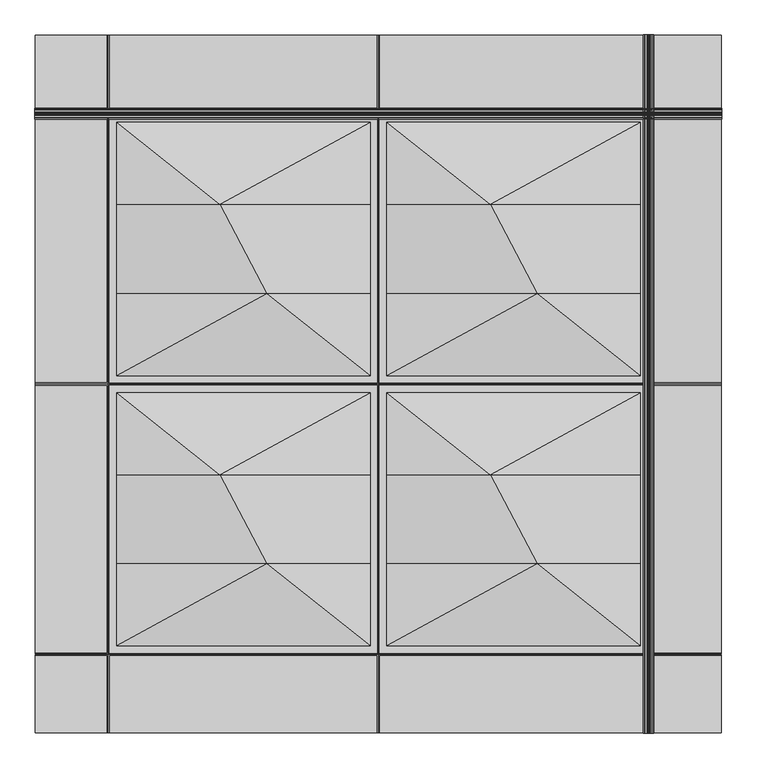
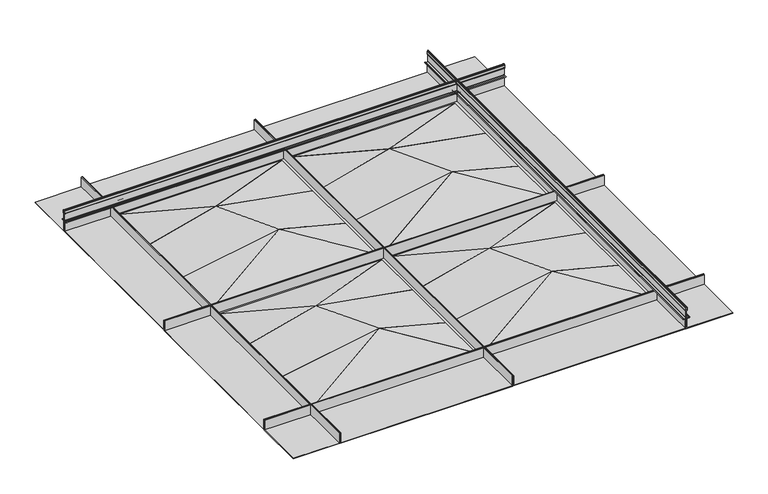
"""IFC4 building model written with IfcOpenShell, lengths in millimetres: proxy geometry, Maxxit_Highland-Ceiling_rev-01 : Maxxit_Highland-Ceiling_Solo."""

from ifc_helpers import new_model, si_unit, point, frame, frame_2d, origin, place, context, project, spatial, polyline, circle_curve, trimmed, segment, composite_curve, outline, extrude, faceted_brep, source, transform, mapped, element, save
from ifc_brep_helpers import plane_surface, spline_surface, advanced_brep


def generic_models_57989197(model_context):
    return source(origin(), model_context, "Body", "SolidModel", [
        faceted_brep([(164.30625, 1395.4125, 25.4), (0.79375, 1395.4125, 25.4), (0.79375, 1393.825, 25.4), (162.71875, 1393.825, 25.4), (162.71875, 788.9875, 25.4), (0.79375, 788.9875, 25.4), (0.79375, 787.4, 25.4), (164.30625, 787.4, 25.4), (164.30625, 1395.4125, -12.7), (164.30625, 787.4, -12.7), (0.79375, 787.4, -12.7), (0.79375, 1395.4125, -12.7), (0.79375, 788.9875, -11.1125), (0.79375, 1393.825, -11.1125), (162.71875, 788.9875, -11.1125), (162.71875, 1393.825, -11.1125)], [[[0, 1, 2, 3, 4, 5, 6, 7]], [[8, 9, 10, 11]], [[1, 0, 8, 11]], [[11, 10, 6, 5, 12, 13, 2, 1]], [[7, 6, 10, 9]], [[0, 7, 9, 8]], [[14, 15, 13, 12]], [[13, 15, 3, 2]], [[14, 12, 5, 4]], [[15, 14, 4, 3]]]),
        faceted_brep([(164.30625, 785.8125, 25.4), (0.79375, 785.8125, 25.4), (0.79375, 784.225, 25.4), (162.71875, 784.225, 25.4), (162.71875, 179.3875, 25.4), (0.79375, 179.3875, 25.4), (0.79375, 177.8, 25.4), (164.30625, 177.8, 25.4), (164.30625, 785.8125, -12.7), (164.30625, 177.8, -12.7), (0.79375, 177.8, -12.7), (0.79375, 785.8125, -12.7), (0.79375, 179.3875, -11.1125), (0.79375, 784.225, -11.1125), (162.71875, 179.3875, -11.1125), (162.71875, 784.225, -11.1125)], [[[0, 1, 2, 3, 4, 5, 6, 7]], [[8, 9, 10, 11]], [[1, 0, 8, 11]], [[11, 10, 6, 5, 12, 13, 2, 1]], [[7, 6, 10, 9]], [[0, 7, 9, 8]], [[14, 15, 13, 12]], [[13, 15, 3, 2]], [[14, 12, 5, 4]], [[15, 14, 4, 3]]]),
        faceted_brep([(1385.09375, 1395.4125, 25.4), (1385.09375, 787.4, 25.4), (1548.60625, 787.4, 25.4), (1548.60625, 788.9875, 25.4), (1386.68125, 788.9875, 25.4), (1386.68125, 1393.825, 25.4), (1548.60625, 1393.825, 25.4), (1548.60625, 1395.4125, 25.4), (1385.09375, 1395.4125, -12.7), (1548.60625, 1395.4125, -12.7), (1548.60625, 787.4, -12.7), (1385.09375, 787.4, -12.7), (1548.60625, 1393.825, -11.1125), (1548.60625, 788.9875, -11.1125), (1386.68125, 788.9875, -11.1125), (1386.68125, 1393.825, -11.1125)], [[[0, 1, 2, 3, 4, 5, 6, 7]], [[8, 9, 10, 11]], [[7, 9, 8, 0]], [[9, 7, 6, 12, 13, 3, 2, 10]], [[1, 11, 10, 2]], [[0, 8, 11, 1]], [[14, 13, 12, 15]], [[12, 6, 5, 15]], [[14, 4, 3, 13]], [[15, 5, 4, 14]]]),
        faceted_brep([(1385.09375, 785.8125, 25.4), (1385.09375, 177.8, 25.4), (1548.60625, 177.8, 25.4), (1548.60625, 179.3875, 25.4), (1386.68125, 179.3875, 25.4), (1386.68125, 784.225, 25.4), (1548.60625, 784.225, 25.4), (1548.60625, 785.8125, 25.4), (1385.09375, 785.8125, -12.7), (1548.60625, 785.8125, -12.7), (1548.60625, 177.8, -12.7), (1385.09375, 177.8, -12.7), (1548.60625, 784.225, -11.1125), (1548.60625, 179.3875, -11.1125), (1386.68125, 179.3875, -11.1125), (1386.68125, 784.225, -11.1125)], [[[0, 1, 2, 3, 4, 5, 6, 7]], [[8, 9, 10, 11]], [[7, 9, 8, 0]], [[9, 7, 6, 12, 13, 3, 2, 10]], [[1, 11, 10, 2]], [[0, 8, 11, 1]], [[14, 13, 12, 15]], [[12, 6, 5, 15]], [[14, 4, 3, 13]], [[15, 5, 4, 14]]]),
        faceted_brep([(1383.50625, 1397.0, 25.4), (1383.50625, 1573.2125, 25.4), (1381.91875, 1573.2125, 25.4), (1381.91875, 1398.5875, 25.4), (777.08125, 1398.5875, 25.4), (777.08125, 1573.2125, 25.4), (775.49375, 1573.2125, 25.4), (775.49375, 1397.0, 25.4), (1383.50625, 1397.0, -12.7), (775.49375, 1397.0, -12.7), (775.49375, 1573.2125, -12.7), (1383.50625, 1573.2125, -12.7), (777.08125, 1573.2125, -11.1125), (1381.91875, 1573.2125, -11.1125), (1381.91875, 1398.5875, -11.1125), (777.08125, 1398.5875, -11.1125)], [[[0, 1, 2, 3, 4, 5, 6, 7]], [[8, 9, 10, 11]], [[7, 9, 8, 0]], [[6, 10, 9, 7]], [[10, 6, 5, 12, 13, 2, 1, 11]], [[0, 8, 11, 1]], [[14, 13, 12, 15]], [[15, 4, 3, 14]], [[15, 12, 5, 4]], [[3, 2, 13, 14]]]),
        faceted_brep([(773.90625, 1397.0, 25.4), (773.90625, 1573.2125, 25.4), (772.31875, 1573.2125, 25.4), (772.31875, 1398.5875, 25.4), (167.48125, 1398.5875, 25.4), (167.48125, 1573.2125, 25.4), (165.89375, 1573.2125, 25.4), (165.89375, 1397.0, 25.4), (773.90625, 1397.0, -12.7), (165.89375, 1397.0, -12.7), (165.89375, 1573.2125, -12.7), (773.90625, 1573.2125, -12.7), (167.48125, 1573.2125, -11.1125), (772.31875, 1573.2125, -11.1125), (772.31875, 1398.5875, -11.1125), (167.48125, 1398.5875, -11.1125)], [[[0, 1, 2, 3, 4, 5, 6, 7]], [[8, 9, 10, 11]], [[7, 9, 8, 0]], [[6, 10, 9, 7]], [[10, 6, 5, 12, 13, 2, 1, 11]], [[0, 8, 11, 1]], [[14, 13, 12, 15]], [[15, 4, 3, 14]], [[15, 12, 5, 4]], [[3, 2, 13, 14]]]),
        faceted_brep([(1383.50625, 176.2125, 25.4), (775.49375, 176.2125, 25.4), (775.49375, 0.0, 25.4), (777.08125, 0.0, 25.4), (777.08125, 174.625, 25.4), (1381.91875, 174.625, 25.4), (1381.91875, 0.0, 25.4), (1383.50625, 0.0, 25.4), (1383.50625, 176.2125, -12.7), (1383.50625, 0.0, -12.7), (775.49375, 0.0, -12.7), (775.49375, 176.2125, -12.7), (1381.91875, 0.0, -11.1125), (777.08125, 0.0, -11.1125), (1381.91875, 174.625, -11.1125), (777.08125, 174.625, -11.1125)], [[[0, 1, 2, 3, 4, 5, 6, 7]], [[8, 9, 10, 11]], [[1, 0, 8, 11]], [[2, 1, 11, 10]], [[10, 9, 7, 6, 12, 13, 3, 2]], [[0, 7, 9, 8]], [[14, 15, 13, 12]], [[15, 14, 5, 4]], [[15, 4, 3, 13]], [[5, 14, 12, 6]]]),
        faceted_brep([(773.90625, 176.2125, 25.4), (165.89375, 176.2125, 25.4), (165.89375, 0.0, 25.4), (167.48125, 0.0, 25.4), (167.48125, 174.625, 25.4), (772.31875, 174.625, 25.4), (772.31875, 0.0, 25.4), (773.90625, 0.0, 25.4), (773.90625, 176.2125, -12.7), (773.90625, 0.0, -12.7), (165.89375, 0.0, -12.7), (165.89375, 176.2125, -12.7), (772.31875, 0.0, -11.1125), (167.48125, 0.0, -11.1125), (772.31875, 174.625, -11.1125), (167.48125, 174.625, -11.1125)], [[[0, 1, 2, 3, 4, 5, 6, 7]], [[8, 9, 10, 11]], [[1, 0, 8, 11]], [[2, 1, 11, 10]], [[10, 9, 7, 6, 12, 13, 3, 2]], [[0, 7, 9, 8]], [[14, 15, 13, 12]], [[15, 14, 5, 4]], [[15, 4, 3, 13]], [[5, 14, 12, 6]]]),
        faceted_brep([(1548.60625, 176.2125, 25.4), (1385.09375, 176.2125, 25.4), (1385.09375, 0.0, 25.4), (1386.68125, 0.0, 25.4), (1386.68125, 174.625, 25.4), (1548.60625, 174.625, 25.4), (1385.09375, 0.0, -12.7), (1385.09375, 176.2125, -12.7), (1548.60625, 176.2125, -12.7), (1548.60625, 0.0, -12.7), (1548.60625, 0.0, -11.1125), (1386.68125, 0.0, -11.1125), (1548.60625, 174.625, -11.1125), (1386.68125, 174.625, -11.1125)], [[[0, 1, 2, 3, 4, 5]], [[6, 7, 8, 9]], [[6, 9, 10, 11, 3, 2]], [[9, 8, 0, 5, 12, 10]], [[2, 1, 7, 6]], [[1, 0, 8, 7]], [[13, 11, 10, 12]], [[11, 13, 4, 3]], [[13, 12, 5, 4]]]),
        faceted_brep([(164.30625, 0.0, 25.4), (164.30625, 176.2125, 25.4), (0.79375, 176.2125, 25.4), (0.79375, 174.625, 25.4), (162.71875, 174.625, 25.4), (162.71875, 0.0, 25.4), (0.79375, 176.2125, -12.7), (164.30625, 176.2125, -12.7), (164.30625, 0.0, -12.7), (0.79375, 0.0, -12.7), (0.79375, 0.0, -11.1125), (0.79375, 174.625, -11.1125), (162.71875, 0.0, -11.1125), (162.71875, 174.625, -11.1125)], [[[0, 1, 2, 3, 4, 5]], [[6, 7, 8, 9]], [[6, 9, 10, 11, 3, 2]], [[9, 8, 0, 5, 12, 10]], [[1, 0, 8, 7]], [[2, 1, 7, 6]], [[13, 11, 10, 12]], [[11, 13, 4, 3]], [[13, 12, 5, 4]]]),
        faceted_brep([(164.30625, 1397.0, 25.4), (164.30625, 1573.2125, 25.4), (162.71875, 1573.2125, 25.4), (162.71875, 1398.5875, 25.4), (0.79375, 1398.5875, 25.4), (0.79375, 1397.0, 25.4), (164.30625, 1397.0, -12.7), (0.79375, 1397.0, -12.7), (0.79375, 1573.2125, -12.7), (164.30625, 1573.2125, -12.7), (0.79375, 1573.2125, -11.1125), (162.71875, 1573.2125, -11.1125), (0.79375, 1398.5875, -11.1125), (162.71875, 1398.5875, -11.1125)], [[[0, 1, 2, 3, 4, 5]], [[6, 7, 8, 9]], [[1, 0, 6, 9]], [[0, 5, 7, 6]], [[9, 8, 10, 11, 2, 1]], [[8, 7, 5, 4, 12, 10]], [[13, 11, 10, 12]], [[11, 13, 3, 2]], [[13, 12, 4, 3]]]),
        faceted_brep([(1385.09375, 1573.2125, 25.4), (1385.09375, 1397.0, 25.4), (1548.60625, 1397.0, 25.4), (1548.60625, 1398.5875, 25.4), (1386.68125, 1398.5875, 25.4), (1386.68125, 1573.2125, 25.4), (1385.09375, 1573.2125, -12.7), (1548.60625, 1573.2125, -12.7), (1548.60625, 1397.0, -12.7), (1385.09375, 1397.0, -12.7), (1386.68125, 1573.2125, -11.1125), (1548.60625, 1573.2125, -11.1125), (1548.60625, 1398.5875, -11.1125), (1386.68125, 1398.5875, -11.1125)], [[[0, 1, 2, 3, 4, 5]], [[6, 7, 8, 9]], [[7, 6, 0, 5, 10, 11]], [[1, 0, 6, 9]], [[2, 1, 9, 8]], [[8, 7, 11, 12, 3, 2]], [[13, 12, 11, 10]], [[12, 13, 4, 3]], [[13, 10, 5, 4]]]),
        faceted_brep([(794.00625, 1376.9000229, -1.5875), (1365.50625, 1376.9000229, -1.5875), (1365.50625, 1376.9000229, -11.1124646), (794.00625, 1376.9000229, -11.1124646), (1026.5740931, 1192.0293404, 49.3625132), (1026.5740626, 1192.0293058, 58.8875245)], [[[0, 1, 2, 3]], [[3, 2, 4]], [[1, 0, 5]], [[5, 4, 2, 1]], [[4, 5, 0, 3]]]),
        faceted_brep([(794.00625, 805.399984, -1.5875), (1365.50625, 805.399984, -1.5875), (1132.938501, 990.2706665, 58.8875132), (1365.50625, 805.399984, -11.1124646), (794.00625, 805.399984, -11.1124646), (1132.938501, 990.2706665, 49.3625132)], [[[0, 1, 2]], [[3, 4, 5]], [[1, 0, 4, 3]], [[5, 2, 1, 3]], [[2, 5, 4, 0]]]),
        faceted_brep([(1365.50625, 990.2706665, -11.1125), (1132.938501, 990.2706665, 49.3625), (794.00625, 990.2706665, -11.1125), (794.00625, 990.2706665, -1.5875), (1132.938501, 990.2706665, 58.8875), (1365.50625, 990.2706665, -1.5875), (1365.50625, 805.4, -11.1125), (794.00625, 805.4, -11.1125), (794.00625, 805.4, -1.5875), (1365.50625, 805.4, -1.5875)], [[[0, 1, 2, 3, 4, 5]], [[1, 0, 6]], [[2, 1, 7]], [[3, 2, 7, 8]], [[4, 3, 8]], [[5, 4, 9]], [[0, 5, 9, 6]], [[1, 4, 8, 7]], [[4, 1, 6, 9]]]),
        faceted_brep([(1365.50625, 1192.0292725, -1.5875), (1026.5739685, 1192.0292725, 58.8875), (794.00625, 1192.0292725, -1.5875), (794.00625, 1192.0292725, -11.1125), (1026.5739685, 1192.0292725, 49.3625), (1365.50625, 1192.0292725, -11.1125), (1365.50625, 1376.9000229, -11.1125), (1365.50625, 1376.9000229, -1.5875), (794.00625, 1376.9000229, -11.1125), (794.00625, 1376.9000229, -1.5875)], [[[0, 1, 2, 3, 4, 5]], [[0, 5, 6, 7]], [[5, 4, 6]], [[4, 3, 8]], [[3, 2, 9, 8]], [[2, 1, 9]], [[1, 0, 7]], [[1, 4, 8, 9]], [[4, 1, 7, 6]]]),
        advanced_brep(
        [(1365.50625, 990.2706665, -1.5875), (1132.938501, 990.2706665, 58.8875), (794.00625, 990.2706665, -1.5875), (794.00625, 990.2706665, -11.1125), (1132.938501, 990.2706665, 49.3625), (1365.50625, 990.2706665, -11.1125), (1365.50625, 1192.0292725, -1.5875), (1365.50625, 1192.0292725, -11.1125), (1026.5739685, 1192.0292725, 49.3625), (794.00625, 1192.0292725, -11.1125), (794.00625, 1192.0292725, -1.5875), (1026.5739685, 1192.0292725, 58.8875)],
        [
            (0, 1),
            (1, 2),
            (2, 3),
            (3, 4),
            (4, 5),
            (5, 0),
            (6, 7),
            (7, 8),
            (8, 9),
            (9, 10),
            (10, 11),
            (11, 6),
            (6, 0),
            (5, 7),
            (4, 8),
            (3, 9),
            (2, 10),
            (1, 11),
        ],
        [
            plane_surface(frame((1097.483667, 990.2706665, 13.8083333), z_axis=(0.0, -1.0, 0.0), x_axis=(0.0, 0.0, -1.0))),
            plane_surface(frame((1062.0288228, 1192.0292725, 13.8083333), z_axis=(0.0, 1.0, 0.0), x_axis=(0.0, 0.0, -1.0))),
            plane_surface(frame((1365.50625, 1192.0292725, -6.35), z_axis=(1.0, 0.0, 0.0), x_axis=(0.0, 0.0, 1.0))),
            spline_surface(1, 1, [[(1026.5739685, 1192.0292725, 49.3625), (1132.938501, 990.2706665, 49.3625)], [(1365.50625, 1192.0292725, -11.1125), (1365.50625, 990.2706665, -11.1125)]], [2, 2], [2, 2], [0.0, 1.0], [0.0, 1.0]),
            spline_surface(1, 1, [[(794.00625, 1192.0292725, -11.1125), (794.00625, 990.2706665, -11.1125)], [(1026.5739685, 1192.0292725, 49.3625), (1132.938501, 990.2706665, 49.3625)]], [2, 2], [2, 2], [0.0, 1.0], [0.0, 1.0]),
            plane_surface(frame((794.00625, 1192.0292725, -6.35), z_axis=(-1.0, 0.0, 0.0), x_axis=(0.0, 0.0, -1.0))),
            spline_surface(1, 1, [[(1026.5739685, 1192.0292725, 58.8875), (1132.938501, 990.2706665, 58.8875)], [(794.00625, 1192.0292725, -1.5875), (794.00625, 990.2706665, -1.5875)]], [2, 2], [2, 2], [0.0, 1.0], [0.0, 1.0]),
            spline_surface(1, 1, [[(1365.50625, 1192.0292725, -1.5875), (1365.50625, 990.2706665, -1.5875)], [(1026.5739685, 1192.0292725, 58.8875), (1132.938501, 990.2706665, 58.8875)]], [2, 2], [2, 2], [0.0, 1.0], [0.0, 1.0]),
        ],
        [
            (0, [[1, 2, 3, 4, 5, 6]]),
            (1, [[7, 8, 9, 10, 11, 12]]),
            (2, [[-7, 13, -6, 14]]),
            (3, [[-8, -14, -5, 15]]),
            (4, [[-9, -15, -4, 16]]),
            (5, [[-10, -16, -3, 17]]),
            (6, [[-11, -17, -2, 18]]),
            (7, [[-12, -18, -1, -13]]),
        ],
    ),
        faceted_brep([(775.49375, 787.4, -12.7), (775.49375, 1395.4125, -12.7), (1383.50625, 1395.4125, -12.7), (1383.50625, 787.4, -12.7), (1365.50625, 805.4, -12.7), (1365.50625, 1376.9000229, -12.7), (794.00625, 1376.9000229, -12.7), (794.00625, 805.4, -12.7), (775.49375, 787.4, 25.4), (1383.50625, 787.4, 25.4), (1383.50625, 1395.4125, 25.4), (775.49375, 1395.4125, 25.4), (1381.91875, 788.9875, 25.4), (777.08125, 788.9875, 25.4), (777.08125, 1393.825, 25.4), (1381.91875, 1393.825, 25.4), (1365.50625, 805.4, -11.1125), (1365.50625, 1376.9000229, -11.1125), (794.00625, 805.4, -11.1125), (794.00625, 1376.9000229, -11.1125), (777.08125, 788.9875, -11.1125), (1381.91875, 788.9875, -11.1125), (1381.91875, 1393.825, -11.1125), (777.08125, 1393.825, -11.1125)], [[[0, 1, 2, 3], [4, 5, 6, 7]], [[8, 9, 10, 11], [12, 13, 14, 15]], [[9, 8, 0, 3]], [[10, 9, 3, 2]], [[11, 10, 2, 1]], [[8, 11, 1, 0]], [[5, 4, 16, 17]], [[4, 7, 18, 16]], [[7, 6, 19, 18]], [[6, 5, 17, 19]], [[20, 21, 22, 23], [17, 16, 18, 19]], [[21, 20, 13, 12]], [[22, 21, 12, 15]], [[23, 22, 15, 14]], [[20, 23, 14, 13]]]),
        faceted_brep([(184.40625, 1376.9000229, -1.5875), (755.90625, 1376.9000229, -1.5875), (755.90625, 1376.9000229, -11.1124646), (184.40625, 1376.9000229, -11.1124646), (416.9740931, 1192.0293404, 49.3625132), (416.9740626, 1192.0293058, 58.8875245)], [[[0, 1, 2, 3]], [[3, 2, 4]], [[1, 0, 5]], [[5, 4, 2, 1]], [[4, 5, 0, 3]]]),
        faceted_brep([(184.40625, 805.399984, -1.5875), (755.90625, 805.399984, -1.5875), (523.338501, 990.2706665, 58.8875132), (755.90625, 805.399984, -11.1124646), (184.40625, 805.399984, -11.1124646), (523.338501, 990.2706665, 49.3625132)], [[[0, 1, 2]], [[3, 4, 5]], [[1, 0, 4, 3]], [[5, 2, 1, 3]], [[2, 5, 4, 0]]]),
        faceted_brep([(755.90625, 990.2706665, -11.1125), (523.338501, 990.2706665, 49.3625), (184.40625, 990.2706665, -11.1125), (184.40625, 990.2706665, -1.5875), (523.338501, 990.2706665, 58.8875), (755.90625, 990.2706665, -1.5875), (755.90625, 805.4, -11.1125), (184.40625, 805.4, -11.1125), (184.40625, 805.4, -1.5875), (755.90625, 805.4, -1.5875)], [[[0, 1, 2, 3, 4, 5]], [[1, 0, 6]], [[2, 1, 7]], [[3, 2, 7, 8]], [[4, 3, 8]], [[5, 4, 9]], [[0, 5, 9, 6]], [[1, 4, 8, 7]], [[4, 1, 6, 9]]]),
        faceted_brep([(755.90625, 1192.0292725, -1.5875), (416.9739685, 1192.0292725, 58.8875), (184.40625, 1192.0292725, -1.5875), (184.40625, 1192.0292725, -11.1125), (416.9739685, 1192.0292725, 49.3625), (755.90625, 1192.0292725, -11.1125), (755.90625, 1376.9000229, -11.1125), (755.90625, 1376.9000229, -1.5875), (184.40625, 1376.9000229, -11.1125), (184.40625, 1376.9000229, -1.5875)], [[[0, 1, 2, 3, 4, 5]], [[0, 5, 6, 7]], [[5, 4, 6]], [[4, 3, 8]], [[3, 2, 9, 8]], [[2, 1, 9]], [[1, 0, 7]], [[1, 4, 8, 9]], [[4, 1, 7, 6]]]),
        advanced_brep(
        [(755.90625, 990.2706665, -1.5875), (523.338501, 990.2706665, 58.8875), (184.40625, 990.2706665, -1.5875), (184.40625, 990.2706665, -11.1125), (523.338501, 990.2706665, 49.3625), (755.90625, 990.2706665, -11.1125), (755.90625, 1192.0292725, -1.5875), (755.90625, 1192.0292725, -11.1125), (416.9739685, 1192.0292725, 49.3625), (184.40625, 1192.0292725, -11.1125), (184.40625, 1192.0292725, -1.5875), (416.9739685, 1192.0292725, 58.8875)],
        [
            (0, 1),
            (1, 2),
            (2, 3),
            (3, 4),
            (4, 5),
            (5, 0),
            (6, 7),
            (7, 8),
            (8, 9),
            (9, 10),
            (10, 11),
            (11, 6),
            (6, 0),
            (5, 7),
            (4, 8),
            (3, 9),
            (2, 10),
            (1, 11),
        ],
        [
            plane_surface(frame((487.883667, 990.2706665, 13.8083333), z_axis=(0.0, -1.0, 0.0), x_axis=(0.0, 0.0, -1.0))),
            plane_surface(frame((452.4288228, 1192.0292725, 13.8083333), z_axis=(0.0, 1.0, 0.0), x_axis=(0.0, 0.0, -1.0))),
            plane_surface(frame((755.90625, 1192.0292725, -6.35), z_axis=(1.0, 0.0, 0.0), x_axis=(0.0, 0.0, 1.0))),
            spline_surface(1, 1, [[(416.9739685, 1192.0292725, 49.3625), (523.338501, 990.2706665, 49.3625)], [(755.90625, 1192.0292725, -11.1125), (755.90625, 990.2706665, -11.1125)]], [2, 2], [2, 2], [0.0, 1.0], [0.0, 1.0]),
            spline_surface(1, 1, [[(184.40625, 1192.0292725, -11.1125), (184.40625, 990.2706665, -11.1125)], [(416.9739685, 1192.0292725, 49.3625), (523.338501, 990.2706665, 49.3625)]], [2, 2], [2, 2], [0.0, 1.0], [0.0, 1.0]),
            plane_surface(frame((184.40625, 1192.0292725, -6.35), z_axis=(-1.0, 0.0, 0.0), x_axis=(0.0, 0.0, -1.0))),
            spline_surface(1, 1, [[(416.9739685, 1192.0292725, 58.8875), (523.338501, 990.2706665, 58.8875)], [(184.40625, 1192.0292725, -1.5875), (184.40625, 990.2706665, -1.5875)]], [2, 2], [2, 2], [0.0, 1.0], [0.0, 1.0]),
            spline_surface(1, 1, [[(755.90625, 1192.0292725, -1.5875), (755.90625, 990.2706665, -1.5875)], [(416.9739685, 1192.0292725, 58.8875), (523.338501, 990.2706665, 58.8875)]], [2, 2], [2, 2], [0.0, 1.0], [0.0, 1.0]),
        ],
        [
            (0, [[1, 2, 3, 4, 5, 6]]),
            (1, [[7, 8, 9, 10, 11, 12]]),
            (2, [[-7, 13, -6, 14]]),
            (3, [[-8, -14, -5, 15]]),
            (4, [[-9, -15, -4, 16]]),
            (5, [[-10, -16, -3, 17]]),
            (6, [[-11, -17, -2, 18]]),
            (7, [[-12, -18, -1, -13]]),
        ],
    ),
        faceted_brep([(165.89375, 787.4, -12.7), (165.89375, 1395.4125, -12.7), (773.90625, 1395.4125, -12.7), (773.90625, 787.4, -12.7), (755.90625, 805.4, -12.7), (755.90625, 1376.9000229, -12.7), (184.40625, 1376.9000229, -12.7), (184.40625, 805.4, -12.7), (165.89375, 787.4, 25.4), (773.90625, 787.4, 25.4), (773.90625, 1395.4125, 25.4), (165.89375, 1395.4125, 25.4), (772.31875, 788.9875, 25.4), (167.48125, 788.9875, 25.4), (167.48125, 1393.825, 25.4), (772.31875, 1393.825, 25.4), (755.90625, 805.4, -11.1125), (755.90625, 1376.9000229, -11.1125), (184.40625, 805.4, -11.1125), (184.40625, 1376.9000229, -11.1125), (167.48125, 788.9875, -11.1125), (772.31875, 788.9875, -11.1125), (772.31875, 1393.825, -11.1125), (167.48125, 1393.825, -11.1125)], [[[0, 1, 2, 3], [4, 5, 6, 7]], [[8, 9, 10, 11], [12, 13, 14, 15]], [[9, 8, 0, 3]], [[10, 9, 3, 2]], [[11, 10, 2, 1]], [[8, 11, 1, 0]], [[5, 4, 16, 17]], [[4, 7, 18, 16]], [[7, 6, 19, 18]], [[6, 5, 17, 19]], [[20, 21, 22, 23], [17, 16, 18, 19]], [[21, 20, 13, 12]], [[22, 21, 12, 15]], [[23, 22, 15, 14]], [[20, 23, 14, 13]]]),
        faceted_brep([(794.00625, 767.3000229, -1.5875), (1365.50625, 767.3000229, -1.5875), (1365.50625, 767.3000229, -11.1124646), (794.00625, 767.3000229, -11.1124646), (1026.5740931, 582.4293404, 49.3625132), (1026.5740626, 582.4293058, 58.8875245)], [[[0, 1, 2, 3]], [[3, 2, 4]], [[1, 0, 5]], [[5, 4, 2, 1]], [[4, 5, 0, 3]]]),
        faceted_brep([(794.00625, 195.799984, -1.5875), (1365.50625, 195.799984, -1.5875), (1132.938501, 380.6706665, 58.8875132), (1365.50625, 195.799984, -11.1124646), (794.00625, 195.799984, -11.1124646), (1132.938501, 380.6706665, 49.3625132)], [[[0, 1, 2]], [[3, 4, 5]], [[1, 0, 4, 3]], [[5, 2, 1, 3]], [[2, 5, 4, 0]]]),
        faceted_brep([(1365.50625, 380.6706665, -11.1125), (1132.938501, 380.6706665, 49.3625), (794.00625, 380.6706665, -11.1125), (794.00625, 380.6706665, -1.5875), (1132.938501, 380.6706665, 58.8875), (1365.50625, 380.6706665, -1.5875), (1365.50625, 195.8, -11.1125), (794.00625, 195.8, -11.1125), (794.00625, 195.8, -1.5875), (1365.50625, 195.8, -1.5875)], [[[0, 1, 2, 3, 4, 5]], [[1, 0, 6]], [[2, 1, 7]], [[3, 2, 7, 8]], [[4, 3, 8]], [[5, 4, 9]], [[0, 5, 9, 6]], [[1, 4, 8, 7]], [[4, 1, 6, 9]]]),
        faceted_brep([(1365.50625, 582.4292725, -1.5875), (1026.5739685, 582.4292725, 58.8875), (794.00625, 582.4292725, -1.5875), (794.00625, 582.4292725, -11.1125), (1026.5739685, 582.4292725, 49.3625), (1365.50625, 582.4292725, -11.1125), (1365.50625, 767.3000229, -11.1125), (1365.50625, 767.3000229, -1.5875), (794.00625, 767.3000229, -11.1125), (794.00625, 767.3000229, -1.5875)], [[[0, 1, 2, 3, 4, 5]], [[0, 5, 6, 7]], [[5, 4, 6]], [[4, 3, 8]], [[3, 2, 9, 8]], [[2, 1, 9]], [[1, 0, 7]], [[1, 4, 8, 9]], [[4, 1, 7, 6]]]),
        advanced_brep(
        [(1365.50625, 380.6706665, -1.5875), (1132.938501, 380.6706665, 58.8875), (794.00625, 380.6706665, -1.5875), (794.00625, 380.6706665, -11.1125), (1132.938501, 380.6706665, 49.3625), (1365.50625, 380.6706665, -11.1125), (1365.50625, 582.4292725, -1.5875), (1365.50625, 582.4292725, -11.1125), (1026.5739685, 582.4292725, 49.3625), (794.00625, 582.4292725, -11.1125), (794.00625, 582.4292725, -1.5875), (1026.5739685, 582.4292725, 58.8875)],
        [
            (0, 1),
            (1, 2),
            (2, 3),
            (3, 4),
            (4, 5),
            (5, 0),
            (6, 7),
            (7, 8),
            (8, 9),
            (9, 10),
            (10, 11),
            (11, 6),
            (6, 0),
            (5, 7),
            (4, 8),
            (3, 9),
            (2, 10),
            (1, 11),
        ],
        [
            plane_surface(frame((1097.483667, 380.6706665, 13.8083333), z_axis=(0.0, -1.0, 0.0), x_axis=(0.0, 0.0, -1.0))),
            plane_surface(frame((1062.0288228, 582.4292725, 13.8083333), z_axis=(0.0, 1.0, 0.0), x_axis=(0.0, 0.0, -1.0))),
            plane_surface(frame((1365.50625, 582.4292725, -6.35), z_axis=(1.0, 0.0, 0.0), x_axis=(0.0, 0.0, 1.0))),
            spline_surface(1, 1, [[(1026.5739685, 582.4292725, 49.3625), (1132.938501, 380.6706665, 49.3625)], [(1365.50625, 582.4292725, -11.1125), (1365.50625, 380.6706665, -11.1125)]], [2, 2], [2, 2], [0.0, 1.0], [0.0, 1.0]),
            spline_surface(1, 1, [[(794.00625, 582.4292725, -11.1125), (794.00625, 380.6706665, -11.1125)], [(1026.5739685, 582.4292725, 49.3625), (1132.938501, 380.6706665, 49.3625)]], [2, 2], [2, 2], [0.0, 1.0], [0.0, 1.0]),
            plane_surface(frame((794.00625, 582.4292725, -6.35), z_axis=(-1.0, 0.0, 0.0), x_axis=(0.0, 0.0, -1.0))),
            spline_surface(1, 1, [[(1026.5739685, 582.4292725, 58.8875), (1132.938501, 380.6706665, 58.8875)], [(794.00625, 582.4292725, -1.5875), (794.00625, 380.6706665, -1.5875)]], [2, 2], [2, 2], [0.0, 1.0], [0.0, 1.0]),
            spline_surface(1, 1, [[(1365.50625, 582.4292725, -1.5875), (1365.50625, 380.6706665, -1.5875)], [(1026.5739685, 582.4292725, 58.8875), (1132.938501, 380.6706665, 58.8875)]], [2, 2], [2, 2], [0.0, 1.0], [0.0, 1.0]),
        ],
        [
            (0, [[1, 2, 3, 4, 5, 6]]),
            (1, [[7, 8, 9, 10, 11, 12]]),
            (2, [[-7, 13, -6, 14]]),
            (3, [[-8, -14, -5, 15]]),
            (4, [[-9, -15, -4, 16]]),
            (5, [[-10, -16, -3, 17]]),
            (6, [[-11, -17, -2, 18]]),
            (7, [[-12, -18, -1, -13]]),
        ],
    ),
        faceted_brep([(775.49375, 177.8, -12.7), (775.49375, 785.8125, -12.7), (1383.50625, 785.8125, -12.7), (1383.50625, 177.8, -12.7), (1365.50625, 195.8, -12.7), (1365.50625, 767.3000229, -12.7), (794.00625, 767.3000229, -12.7), (794.00625, 195.8, -12.7), (775.49375, 177.8, 25.4), (1383.50625, 177.8, 25.4), (1383.50625, 785.8125, 25.4), (775.49375, 785.8125, 25.4), (1381.91875, 179.3875, 25.4), (777.08125, 179.3875, 25.4), (777.08125, 784.225, 25.4), (1381.91875, 784.225, 25.4), (1365.50625, 195.8, -11.1125), (1365.50625, 767.3000229, -11.1125), (794.00625, 195.8, -11.1125), (794.00625, 767.3000229, -11.1125), (777.08125, 179.3875, -11.1125), (1381.91875, 179.3875, -11.1125), (1381.91875, 784.225, -11.1125), (777.08125, 784.225, -11.1125)], [[[0, 1, 2, 3], [4, 5, 6, 7]], [[8, 9, 10, 11], [12, 13, 14, 15]], [[9, 8, 0, 3]], [[10, 9, 3, 2]], [[11, 10, 2, 1]], [[8, 11, 1, 0]], [[5, 4, 16, 17]], [[4, 7, 18, 16]], [[7, 6, 19, 18]], [[6, 5, 17, 19]], [[20, 21, 22, 23], [17, 16, 18, 19]], [[21, 20, 13, 12]], [[22, 21, 12, 15]], [[23, 22, 15, 14]], [[20, 23, 14, 13]]]),
        faceted_brep([(184.40625, 767.3000229, -1.5875), (755.90625, 767.3000229, -1.5875), (755.90625, 767.3000229, -11.1124646), (184.40625, 767.3000229, -11.1124646), (416.9740931, 582.4293404, 49.3625132), (416.9740626, 582.4293058, 58.8875245)], [[[0, 1, 2, 3]], [[3, 2, 4]], [[1, 0, 5]], [[5, 4, 2, 1]], [[4, 5, 0, 3]]]),
        faceted_brep([(184.40625, 195.799984, -1.5875), (755.90625, 195.799984, -1.5875), (523.338501, 380.6706665, 58.8875132), (755.90625, 195.799984, -11.1124646), (184.40625, 195.799984, -11.1124646), (523.338501, 380.6706665, 49.3625132)], [[[0, 1, 2]], [[3, 4, 5]], [[1, 0, 4, 3]], [[5, 2, 1, 3]], [[2, 5, 4, 0]]]),
        faceted_brep([(755.90625, 380.6706665, -11.1125), (523.338501, 380.6706665, 49.3625), (184.40625, 380.6706665, -11.1125), (184.40625, 380.6706665, -1.5875), (523.338501, 380.6706665, 58.8875), (755.90625, 380.6706665, -1.5875), (755.90625, 195.8, -11.1125), (184.40625, 195.8, -11.1125), (184.40625, 195.8, -1.5875), (755.90625, 195.8, -1.5875)], [[[0, 1, 2, 3, 4, 5]], [[1, 0, 6]], [[2, 1, 7]], [[3, 2, 7, 8]], [[4, 3, 8]], [[5, 4, 9]], [[0, 5, 9, 6]], [[1, 4, 8, 7]], [[4, 1, 6, 9]]]),
        faceted_brep([(755.90625, 582.4292725, -1.5875), (416.9739685, 582.4292725, 58.8875), (184.40625, 582.4292725, -1.5875), (184.40625, 582.4292725, -11.1125), (416.9739685, 582.4292725, 49.3625), (755.90625, 582.4292725, -11.1125), (755.90625, 767.3000229, -11.1125), (755.90625, 767.3000229, -1.5875), (184.40625, 767.3000229, -11.1125), (184.40625, 767.3000229, -1.5875)], [[[0, 1, 2, 3, 4, 5]], [[0, 5, 6, 7]], [[5, 4, 6]], [[4, 3, 8]], [[3, 2, 9, 8]], [[2, 1, 9]], [[1, 0, 7]], [[1, 4, 8, 9]], [[4, 1, 7, 6]]]),
        advanced_brep(
        [(755.90625, 380.6706665, -1.5875), (523.338501, 380.6706665, 58.8875), (184.40625, 380.6706665, -1.5875), (184.40625, 380.6706665, -11.1125), (523.338501, 380.6706665, 49.3625), (755.90625, 380.6706665, -11.1125), (755.90625, 582.4292725, -1.5875), (755.90625, 582.4292725, -11.1125), (416.9739685, 582.4292725, 49.3625), (184.40625, 582.4292725, -11.1125), (184.40625, 582.4292725, -1.5875), (416.9739685, 582.4292725, 58.8875)],
        [
            (0, 1),
            (1, 2),
            (2, 3),
            (3, 4),
            (4, 5),
            (5, 0),
            (6, 7),
            (7, 8),
            (8, 9),
            (9, 10),
            (10, 11),
            (11, 6),
            (6, 0),
            (5, 7),
            (4, 8),
            (3, 9),
            (2, 10),
            (1, 11),
        ],
        [
            plane_surface(frame((487.883667, 380.6706665, 13.8083333), z_axis=(0.0, -1.0, 0.0), x_axis=(0.0, 0.0, -1.0))),
            plane_surface(frame((452.4288228, 582.4292725, 13.8083333), z_axis=(0.0, 1.0, 0.0), x_axis=(0.0, 0.0, -1.0))),
            plane_surface(frame((755.90625, 582.4292725, -6.35), z_axis=(1.0, 0.0, 0.0), x_axis=(0.0, 0.0, 1.0))),
            spline_surface(1, 1, [[(416.9739685, 582.4292725, 49.3625), (523.338501, 380.6706665, 49.3625)], [(755.90625, 582.4292725, -11.1125), (755.90625, 380.6706665, -11.1125)]], [2, 2], [2, 2], [0.0, 1.0], [0.0, 1.0]),
            spline_surface(1, 1, [[(184.40625, 582.4292725, -11.1125), (184.40625, 380.6706665, -11.1125)], [(416.9739685, 582.4292725, 49.3625), (523.338501, 380.6706665, 49.3625)]], [2, 2], [2, 2], [0.0, 1.0], [0.0, 1.0]),
            plane_surface(frame((184.40625, 582.4292725, -6.35), z_axis=(-1.0, 0.0, 0.0), x_axis=(0.0, 0.0, -1.0))),
            spline_surface(1, 1, [[(416.9739685, 582.4292725, 58.8875), (523.338501, 380.6706665, 58.8875)], [(184.40625, 582.4292725, -1.5875), (184.40625, 380.6706665, -1.5875)]], [2, 2], [2, 2], [0.0, 1.0], [0.0, 1.0]),
            spline_surface(1, 1, [[(755.90625, 582.4292725, -1.5875), (755.90625, 380.6706665, -1.5875)], [(416.9739685, 582.4292725, 58.8875), (523.338501, 380.6706665, 58.8875)]], [2, 2], [2, 2], [0.0, 1.0], [0.0, 1.0]),
        ],
        [
            (0, [[1, 2, 3, 4, 5, 6]]),
            (1, [[7, 8, 9, 10, 11, 12]]),
            (2, [[-7, 13, -6, 14]]),
            (3, [[-8, -14, -5, 15]]),
            (4, [[-9, -15, -4, 16]]),
            (5, [[-10, -16, -3, 17]]),
            (6, [[-11, -17, -2, 18]]),
            (7, [[-12, -18, -1, -13]]),
        ],
    ),
        faceted_brep([(165.89375, 177.8, -12.7), (165.89375, 785.8125, -12.7), (773.90625, 785.8125, -12.7), (773.90625, 177.8, -12.7), (755.90625, 195.8, -12.7), (755.90625, 767.3000229, -12.7), (184.40625, 767.3000229, -12.7), (184.40625, 195.8, -12.7), (165.89375, 177.8, 25.4), (773.90625, 177.8, 25.4), (773.90625, 785.8125, 25.4), (165.89375, 785.8125, 25.4), (772.31875, 179.3875, 25.4), (167.48125, 179.3875, 25.4), (167.48125, 784.225, 25.4), (772.31875, 784.225, 25.4), (755.90625, 195.8, -11.1125), (755.90625, 767.3000229, -11.1125), (184.40625, 195.8, -11.1125), (184.40625, 767.3000229, -11.1125), (167.48125, 179.3875, -11.1125), (772.31875, 179.3875, -11.1125), (772.31875, 784.225, -11.1125), (167.48125, 784.225, -11.1125)], [[[0, 1, 2, 3], [4, 5, 6, 7]], [[8, 9, 10, 11], [12, 13, 14, 15]], [[9, 8, 0, 3]], [[10, 9, 3, 2]], [[11, 10, 2, 1]], [[8, 11, 1, 0]], [[5, 4, 16, 17]], [[4, 7, 18, 16]], [[7, 6, 19, 18]], [[6, 5, 17, 19]], [[20, 21, 22, 23], [17, 16, 18, 19]], [[21, 20, 13, 12]], [[22, 21, 12, 15]], [[23, 22, 15, 14]], [[20, 23, 14, 13]]]),
        extrude(outline(composite_curve([segment(polyline([(26.3453115, 1385.4459122), (26.0364605, 1393.8159382), (27.0486923, 1393.8159382), (27.0486923, 1386.0525313)]), True, "CONTINUOUS"), segment(trimmed(circle_curve(frame_2d((28.0053766, 1386.0525313)), 0.9566843), [point((27.0486923, 1386.0525313))], [point((28.0053766, 1385.095847))], True, "CARTESIAN"), True, "CONTINUOUS"), segment(polyline([(28.0053766, 1385.095847), (53.7729211, 1385.095847)]), True, "CONTINUOUS"), segment(trimmed(circle_curve(frame_2d((53.6130577, 1385.8226944)), 0.74422), [point((53.7729211, 1385.095847))], [point((54.356, 1385.7791036))], True, "CARTESIAN"), True, "CONTINUOUS"), segment(trimmed(circle_curve(frame_2d((58.371716, 1386.0382203)), 4.0240672), [point((54.356, 1385.7791036))], [point((54.4068054, 1386.7256795))], False, "CARTESIAN"), True, "CONTINUOUS"), segment(trimmed(circle_curve(frame_2d((55.7865501, 1386.367924)), 1.4253717), [point((54.4068054, 1386.7256795))], [point((55.7865501, 1387.7932957))], False, "CARTESIAN"), True, "CONTINUOUS"), segment(polyline([(55.7865501, 1387.7932957), (64.7585942, 1387.7932957)]), True, "CONTINUOUS"), segment(trimmed(circle_curve(frame_2d((64.8150812, 1385.7432108)), 2.0508629), [point((64.7585942, 1387.7932957))], [point((66.2652603, 1387.1933899))], False, "CARTESIAN"), True, "CONTINUOUS"), segment(polyline([(66.2652603, 1387.1933899), (68.1708325, 1385.2878177)]), True, "CONTINUOUS"), segment(trimmed(circle_curve(frame_2d((67.1830148, 1384.3)), 1.3969852), [point((68.1708325, 1385.2878177))], [point((68.1708325, 1383.3121823))], False, "CARTESIAN"), True, "CONTINUOUS"), segment(polyline([(68.1708325, 1383.3121823), (66.2652603, 1381.4066101)]), True, "CONTINUOUS"), segment(trimmed(circle_curve(frame_2d((64.8150812, 1382.8567892)), 2.0508629), [point((66.2652603, 1381.4066101))], [point((64.7585942, 1380.8067043))], False, "CARTESIAN"), True, "CONTINUOUS"), segment(polyline([(64.7585942, 1380.8067043), (55.7865501, 1380.8067043)]), True, "CONTINUOUS"), segment(trimmed(circle_curve(frame_2d((55.7865501, 1382.232076)), 1.4253717), [point((55.7865501, 1380.8067043))], [point((54.4068054, 1381.8743205))], False, "CARTESIAN"), True, "CONTINUOUS"), segment(trimmed(circle_curve(frame_2d((58.371716, 1382.5617797)), 4.0240672), [point((54.4068054, 1381.8743205))], [point((54.356, 1382.8208964))], False, "CARTESIAN"), True, "CONTINUOUS"), segment(trimmed(circle_curve(frame_2d((53.6130577, 1382.7773056)), 0.74422), [point((54.356, 1382.8208964))], [point((53.7436541, 1383.5099774))], True, "CARTESIAN"), True, "CONTINUOUS"), segment(polyline([(53.7436541, 1383.5099774), (28.0053766, 1383.5099774)]), True, "CONTINUOUS"), segment(trimmed(circle_curve(frame_2d((28.0053766, 1382.5532931)), 0.9566843), [point((28.0053766, 1383.5099774))], [point((27.0486923, 1382.5532931))], True, "CARTESIAN"), True, "CONTINUOUS"), segment(polyline([(27.0486923, 1382.5532931), (27.0486923, 1373.9569771), (26.0290179, 1373.9569771), (26.3453115, 1383.1599122)]), True, "CONTINUOUS"), segment(trimmed(circle_curve(frame_2d((27.4883115, 1383.1599122)), 1.143), [point((26.3453115, 1383.1599122))], [point((27.4883115, 1384.3029122))], False, "CARTESIAN"), True, "CONTINUOUS"), segment(trimmed(circle_curve(frame_2d((27.4883115, 1385.4459122)), 1.143), [point((27.4883115, 1384.3029122))], [point((26.3453115, 1385.4459122))], False, "CARTESIAN"), True, "CONTINUOUS")], self_intersect=False), holes=[composite_curve([segment(trimmed(circle_curve(frame_2d((54.058724, 1383.2303923)), 1.0922), [point((54.2797221, 1384.3))], [point((55.150924, 1383.2303923))], False, "CARTESIAN"), True, "CONTINUOUS"), segment(polyline([(55.150924, 1383.2303923), (55.150924, 1382.2399715)]), True, "CONTINUOUS"), segment(trimmed(circle_curve(frame_2d((55.7859245, 1382.2399715)), 0.6350005), [point((55.150924, 1382.2399715))], [point((55.7859245, 1381.604971))], True, "CARTESIAN"), True, "CONTINUOUS"), segment(polyline([(55.7859245, 1381.604971), (64.7585942, 1381.604971)]), True, "CONTINUOUS"), segment(trimmed(circle_curve(frame_2d((64.7240599, 1383.1078141)), 1.5032399), [point((64.7585942, 1381.604971))], [point((65.7039943, 1381.9678761))], True, "CARTESIAN"), True, "CONTINUOUS"), segment(polyline([(65.7039943, 1381.9678761), (67.6095665, 1383.8734483)]), True, "CONTINUOUS"), segment(trimmed(circle_curve(frame_2d((67.1830148, 1384.3)), 0.6032352), [point((67.6095665, 1383.8734483))], [point((67.6095665, 1384.7265517))], True, "CARTESIAN"), True, "CONTINUOUS"), segment(polyline([(67.6095665, 1384.7265517), (65.7039943, 1386.6321239)]), True, "CONTINUOUS"), segment(trimmed(circle_curve(frame_2d((64.7240599, 1385.4921859)), 1.5032399), [point((65.7039943, 1386.6321239))], [point((64.7585942, 1386.995029))], True, "CARTESIAN"), True, "CONTINUOUS"), segment(polyline([(64.7585942, 1386.995029), (55.7859245, 1386.995029)]), True, "CONTINUOUS"), segment(trimmed(circle_curve(frame_2d((55.7859245, 1386.3600285)), 0.6350005), [point((55.7859245, 1386.995029))], [point((55.150924, 1386.3600285))], True, "CARTESIAN"), True, "CONTINUOUS"), segment(polyline([(55.150924, 1386.3600285), (55.150924, 1385.3696077)]), True, "CONTINUOUS"), segment(trimmed(circle_curve(frame_2d((54.058724, 1385.3696077)), 1.0922), [point((55.150924, 1385.3696077))], [point((54.2797221, 1384.3))], False, "CARTESIAN"), True, "CONTINUOUS")], self_intersect=False)]), frame((0.0, -0.79375, 0.0), z_axis=(0.0, 1.0, 0.0), x_axis=(0.0, 0.0, 1.0)), (0.0, 0.0, 1.0), 1574.8),
        extrude(outline(composite_curve([segment(trimmed(circle_curve(frame_2d((26.8823557, 1394.7357385)), 1.4823557), [point((25.4, 1394.7357385))], [point((28.3175237, 1394.3646975))], False, "CARTESIAN"), True, "CONTINUOUS"), segment(polyline([(28.3175237, 1394.3646975), (27.887022, 1392.8385205), (27.123083, 1393.0540113), (27.550773, 1394.5702203)]), True, "CONTINUOUS"), segment(trimmed(circle_curve(frame_2d((26.8823557, 1394.7357385)), 0.6886057), [point((27.550773, 1394.5702203))], [point((26.19375, 1394.7357385))], True, "CARTESIAN"), True, "CONTINUOUS"), segment(polyline([(26.19375, 1394.7357385), (26.19375, 1373.8642615)]), True, "CONTINUOUS"), segment(trimmed(circle_curve(frame_2d((26.8823557, 1373.8642615)), 0.6886057), [point((26.19375, 1373.8642615))], [point((27.550773, 1374.0297797))], True, "CARTESIAN"), True, "CONTINUOUS"), segment(polyline([(27.550773, 1374.0297797), (27.123083, 1375.5459887), (27.887022, 1375.7614795), (28.3175237, 1374.2353025)]), True, "CONTINUOUS"), segment(trimmed(circle_curve(frame_2d((26.8823557, 1373.8642615)), 1.4823557), [point((28.3175237, 1374.2353025))], [point((25.4, 1373.8642615))], False, "CARTESIAN"), True, "CONTINUOUS"), segment(polyline([(25.4, 1373.8642615), (25.4, 1394.7357385)]), True, "CONTINUOUS")], self_intersect=False)), frame((0.0, -0.79375, 0.0), z_axis=(0.0, 1.0, 0.0), x_axis=(0.0, 0.0, 1.0)), (0.0, 0.0, 1.0), 1574.8),
        extrude(outline(composite_curve([segment(trimmed(circle_curve(frame_2d((1397.3521622, 27.4883115)), 1.143), [point((1397.3521622, 26.3453115))], [point((1396.2091622, 27.4883115))], False, "CARTESIAN"), True, "CONTINUOUS"), segment(trimmed(circle_curve(frame_2d((1395.0661622, 27.4883115)), 1.143), [point((1396.2091622, 27.4883115))], [point((1395.0661622, 26.3453115))], False, "CARTESIAN"), True, "CONTINUOUS"), segment(polyline([(1395.0661622, 26.3453115), (1385.8632271, 26.0290179), (1385.8632271, 27.0486923), (1394.4595431, 27.0486923)]), True, "CONTINUOUS"), segment(trimmed(circle_curve(frame_2d((1394.4595431, 28.0053766)), 0.9566843), [point((1394.4595431, 27.0486923))], [point((1395.4162274, 28.0053766))], True, "CARTESIAN"), True, "CONTINUOUS"), segment(polyline([(1395.4162274, 28.0053766), (1395.4162274, 53.7436541)]), True, "CONTINUOUS"), segment(trimmed(circle_curve(frame_2d((1394.6835556, 53.6130577)), 0.74422), [point((1395.4162274, 53.7436541))], [point((1394.7271464, 54.356))], True, "CARTESIAN"), True, "CONTINUOUS"), segment(trimmed(circle_curve(frame_2d((1394.4680297, 58.371716)), 4.0240672), [point((1394.7271464, 54.356))], [point((1393.7805705, 54.4068054))], False, "CARTESIAN"), True, "CONTINUOUS"), segment(trimmed(circle_curve(frame_2d((1394.138326, 55.7865501)), 1.4253717), [point((1393.7805705, 54.4068054))], [point((1392.7129543, 55.7865501))], False, "CARTESIAN"), True, "CONTINUOUS"), segment(polyline([(1392.7129543, 55.7865501), (1392.7129543, 64.7585942)]), True, "CONTINUOUS"), segment(trimmed(circle_curve(frame_2d((1394.7630392, 64.8150812)), 2.0508629), [point((1392.7129543, 64.7585942))], [point((1393.3128601, 66.2652603))], False, "CARTESIAN"), True, "CONTINUOUS"), segment(polyline([(1393.3128601, 66.2652603), (1395.2184323, 68.1708325)]), True, "CONTINUOUS"), segment(trimmed(circle_curve(frame_2d((1396.20625, 67.1830148)), 1.3969852), [point((1395.2184323, 68.1708325))], [point((1397.1940677, 68.1708325))], False, "CARTESIAN"), True, "CONTINUOUS"), segment(polyline([(1397.1940677, 68.1708325), (1399.0996399, 66.2652603)]), True, "CONTINUOUS"), segment(trimmed(circle_curve(frame_2d((1397.6494608, 64.8150812)), 2.0508629), [point((1399.0996399, 66.2652603))], [point((1399.6995457, 64.7585942))], False, "CARTESIAN"), True, "CONTINUOUS"), segment(polyline([(1399.6995457, 64.7585942), (1399.6995457, 55.7865501)]), True, "CONTINUOUS"), segment(trimmed(circle_curve(frame_2d((1398.274174, 55.7865501)), 1.4253717), [point((1399.6995457, 55.7865501))], [point((1398.6319295, 54.4068054))], False, "CARTESIAN"), True, "CONTINUOUS"), segment(trimmed(circle_curve(frame_2d((1397.9444703, 58.371716)), 4.0240672), [point((1398.6319295, 54.4068054))], [point((1397.6853536, 54.356))], False, "CARTESIAN"), True, "CONTINUOUS"), segment(trimmed(circle_curve(frame_2d((1397.7289444, 53.6130577)), 0.74422), [point((1397.6853536, 54.356))], [point((1397.002097, 53.7729211))], True, "CARTESIAN"), True, "CONTINUOUS"), segment(polyline([(1397.002097, 53.7729211), (1397.002097, 28.0053766)]), True, "CONTINUOUS"), segment(trimmed(circle_curve(frame_2d((1397.9587813, 28.0053766)), 0.9566843), [point((1397.002097, 28.0053766))], [point((1397.9587813, 27.0486923))], True, "CARTESIAN"), True, "CONTINUOUS"), segment(polyline([(1397.9587813, 27.0486923), (1405.7221882, 27.0486923), (1405.7221882, 26.0364605), (1397.3521622, 26.3453115)]), True, "CONTINUOUS")], self_intersect=False), holes=[composite_curve([segment(trimmed(circle_curve(frame_2d((1397.2758577, 54.058724)), 1.0922), [point((1396.20625, 54.2797221))], [point((1397.2758577, 55.150924))], False, "CARTESIAN"), True, "CONTINUOUS"), segment(polyline([(1397.2758577, 55.150924), (1398.2662785, 55.150924)]), True, "CONTINUOUS"), segment(trimmed(circle_curve(frame_2d((1398.2662785, 55.7859245)), 0.6350005), [point((1398.2662785, 55.150924))], [point((1398.901279, 55.7859245))], True, "CARTESIAN"), True, "CONTINUOUS"), segment(polyline([(1398.901279, 55.7859245), (1398.901279, 64.7585942)]), True, "CONTINUOUS"), segment(trimmed(circle_curve(frame_2d((1397.3984359, 64.7240599)), 1.5032399), [point((1398.901279, 64.7585942))], [point((1398.5383739, 65.7039943))], True, "CARTESIAN"), True, "CONTINUOUS"), segment(polyline([(1398.5383739, 65.7039943), (1396.6328017, 67.6095665)]), True, "CONTINUOUS"), segment(trimmed(circle_curve(frame_2d((1396.20625, 67.1830148)), 0.6032352), [point((1396.6328017, 67.6095665))], [point((1395.7796983, 67.6095665))], True, "CARTESIAN"), True, "CONTINUOUS"), segment(polyline([(1395.7796983, 67.6095665), (1393.8741261, 65.7039943)]), True, "CONTINUOUS"), segment(trimmed(circle_curve(frame_2d((1395.0140641, 64.7240599)), 1.5032399), [point((1393.8741261, 65.7039943))], [point((1393.511221, 64.7585942))], True, "CARTESIAN"), True, "CONTINUOUS"), segment(polyline([(1393.511221, 64.7585942), (1393.511221, 55.7859245)]), True, "CONTINUOUS"), segment(trimmed(circle_curve(frame_2d((1394.1462215, 55.7859245)), 0.6350005), [point((1393.511221, 55.7859245))], [point((1394.1462215, 55.150924))], True, "CARTESIAN"), True, "CONTINUOUS"), segment(polyline([(1394.1462215, 55.150924), (1395.1366423, 55.150924)]), True, "CONTINUOUS"), segment(trimmed(circle_curve(frame_2d((1395.1366423, 54.058724)), 1.0922), [point((1395.1366423, 55.150924))], [point((1396.20625, 54.2797221))], False, "CARTESIAN"), True, "CONTINUOUS")], self_intersect=False)]), frame((0.0, 0.0, 0.0), z_axis=(1.0, 0.0, 0.0), x_axis=(0.0, 1.0, 0.0)), (0.0, 0.0, 1.0), 1549.4),
        extrude(outline(composite_curve([segment(polyline([(1406.6419885, 25.4), (1385.7705115, 25.4)]), True, "CONTINUOUS"), segment(trimmed(circle_curve(frame_2d((1385.7705115, 26.8823557)), 1.4823557), [point((1385.7705115, 25.4))], [point((1386.1415525, 28.3175237))], False, "CARTESIAN"), True, "CONTINUOUS"), segment(polyline([(1386.1415525, 28.3175237), (1387.6677295, 27.887022), (1387.4522387, 27.123083), (1385.9360297, 27.550773)]), True, "CONTINUOUS"), segment(trimmed(circle_curve(frame_2d((1385.7705115, 26.8823557)), 0.6886057), [point((1385.9360297, 27.550773))], [point((1385.7705115, 26.19375))], True, "CARTESIAN"), True, "CONTINUOUS"), segment(polyline([(1385.7705115, 26.19375), (1406.6419885, 26.19375)]), True, "CONTINUOUS"), segment(trimmed(circle_curve(frame_2d((1406.6419885, 26.8823557)), 0.6886057), [point((1406.6419885, 26.19375))], [point((1406.4764703, 27.550773))], True, "CARTESIAN"), True, "CONTINUOUS"), segment(polyline([(1406.4764703, 27.550773), (1404.9602613, 27.123083), (1404.7447705, 27.887022), (1406.2709475, 28.3175237)]), True, "CONTINUOUS"), segment(trimmed(circle_curve(frame_2d((1406.6419885, 26.8823557)), 1.4823557), [point((1406.2709475, 28.3175237))], [point((1406.6419885, 25.4))], False, "CARTESIAN"), True, "CONTINUOUS")], self_intersect=False)), frame((0.0, 0.0, 0.0), z_axis=(1.0, 0.0, 0.0), x_axis=(0.0, 1.0, 0.0)), (0.0, 0.0, 1.0), 1549.4),
    ])


if __name__ == "__main__":
    model = new_model("IFC4")
    model_context = context("Model", 3, world=origin())
    ifc_project = project(units=[si_unit("LENGTHUNIT", "METRE", prefix="MILLI")], contexts=[model_context])
    site = spatial("IfcSite", under=ifc_project)
    building = spatial("IfcBuilding", under=site)
    placement = place(None, origin())
    generic_models_shape = generic_models_57989197(model_context)
    element("IfcBuildingElementProxy", 1, Name="Maxxit_Highland-Ceiling_rev-01 : Maxxit_Highland-Ceiling_Solo", ObjectType="Maxxit_Highland-Ceiling_rev-01 : Maxxit_Highland-Ceiling_Solo", at=placement, inside=building, context=model_context, shape_type="MappedRepresentation", body=[
        mapped(generic_models_shape, transform((0.0, 0.0, 0.0), x_axis=(1.0, 0.0, 0.0), y_axis=(0.0, 1.0, 0.0), z_axis=(0.0, 0.0, 1.0))),
    ])
    save(model, "model.ifc")
